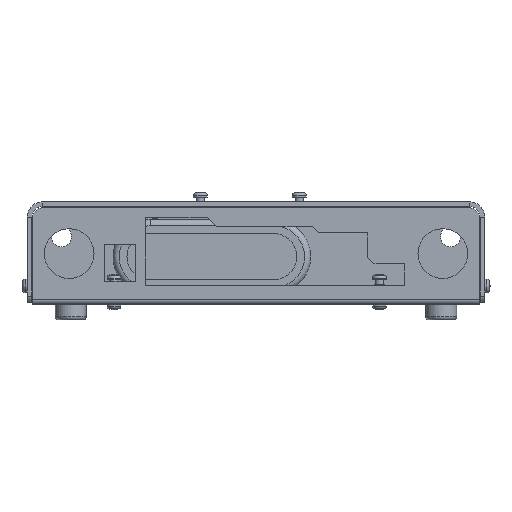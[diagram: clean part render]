
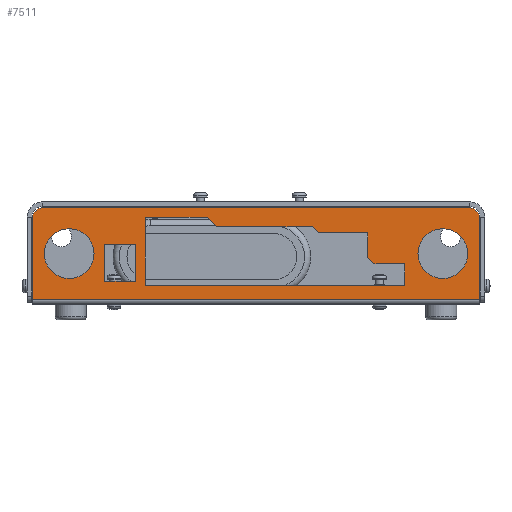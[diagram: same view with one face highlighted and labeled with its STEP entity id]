
A CAD part, front view. The second image highlights one B-rep face of the part: STEP entity #7511.
In plain terms, the highlighted planar face has unit normal (0, -1, 0).
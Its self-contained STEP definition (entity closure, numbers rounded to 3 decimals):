
#359=FACE_BOUND('',#1137,.T.);
#360=FACE_BOUND('',#1138,.T.);
#361=FACE_BOUND('',#1139,.T.);
#362=FACE_BOUND('',#1140,.T.);
#444=PLANE('',#8075);
#706=FACE_OUTER_BOUND('',#1136,.T.);
#1136=EDGE_LOOP('',(#5647,#5648,#5649,#5650,#5651,#5652));
#1137=EDGE_LOOP('',(#5653));
#1138=EDGE_LOOP('',(#5654));
#1139=EDGE_LOOP('',(#5655,#5656,#5657,#5658));
#1140=EDGE_LOOP('',(#5659,#5660,#5661,#5662,#5663,#5664,#5665,#5666,#5667,
#5668,#5669));
#1658=LINE('',#11664,#2420);
#1660=LINE('',#11669,#2422);
#1661=LINE('',#11671,#2423);
#1662=LINE('',#11675,#2424);
#1663=LINE('',#11678,#2425);
#1664=LINE('',#11685,#2426);
#1665=LINE('',#11687,#2427);
#1666=LINE('',#11689,#2428);
#1667=LINE('',#11690,#2429);
#1668=LINE('',#11692,#2430);
#1669=LINE('',#11694,#2431);
#1670=LINE('',#11696,#2432);
#1671=LINE('',#11698,#2433);
#1672=LINE('',#11700,#2434);
#1673=LINE('',#11702,#2435);
#1674=LINE('',#11704,#2436);
#1675=LINE('',#11706,#2437);
#1676=LINE('',#11708,#2438);
#1677=LINE('',#11709,#2439);
#2420=VECTOR('',#9206,10.);
#2422=VECTOR('',#9210,10.);
#2423=VECTOR('',#9211,0.67);
#2424=VECTOR('',#9214,10.);
#2425=VECTOR('',#9217,10.);
#2426=VECTOR('',#9222,10.);
#2427=VECTOR('',#9223,10.);
#2428=VECTOR('',#9224,10.);
#2429=VECTOR('',#9225,10.);
#2430=VECTOR('',#9226,10.);
#2431=VECTOR('',#9227,10.);
#2432=VECTOR('',#9228,10.);
#2433=VECTOR('',#9229,10.);
#2434=VECTOR('',#9230,10.);
#2435=VECTOR('',#9231,10.);
#2436=VECTOR('',#9232,10.);
#2437=VECTOR('',#9233,10.);
#2438=VECTOR('',#9234,10.);
#2439=VECTOR('',#9235,10.);
#3110=CIRCLE('',#8076,4.);
#3111=CIRCLE('',#8077,4.);
#3112=CIRCLE('',#8078,8.05);
#3113=CIRCLE('',#8079,8.05);
#3561=VERTEX_POINT('',#11661);
#3562=VERTEX_POINT('',#11663);
#3563=VERTEX_POINT('',#11667);
#3564=VERTEX_POINT('',#11668);
#3565=VERTEX_POINT('',#11670);
#3566=VERTEX_POINT('',#11672);
#3567=VERTEX_POINT('',#11674);
#3568=VERTEX_POINT('',#11676);
#3569=VERTEX_POINT('',#11679);
#3570=VERTEX_POINT('',#11681);
#3571=VERTEX_POINT('',#11683);
#3572=VERTEX_POINT('',#11684);
#3573=VERTEX_POINT('',#11686);
#3574=VERTEX_POINT('',#11688);
#3575=VERTEX_POINT('',#11691);
#3576=VERTEX_POINT('',#11693);
#3577=VERTEX_POINT('',#11695);
#3578=VERTEX_POINT('',#11697);
#3579=VERTEX_POINT('',#11699);
#3580=VERTEX_POINT('',#11701);
#3581=VERTEX_POINT('',#11703);
#3582=VERTEX_POINT('',#11705);
#3583=VERTEX_POINT('',#11707);
#4339=EDGE_CURVE('',#3561,#3562,#1658,.T.);
#4341=EDGE_CURVE('',#3563,#3564,#1660,.T.);
#4342=EDGE_CURVE('',#3563,#3565,#1661,.T.);
#4343=EDGE_CURVE('',#3566,#3565,#3110,.T.);
#4344=EDGE_CURVE('',#3566,#3567,#1662,.T.);
#4345=EDGE_CURVE('',#3568,#3567,#3111,.T.);
#4346=EDGE_CURVE('',#3564,#3568,#1663,.T.);
#4347=EDGE_CURVE('',#3569,#3569,#3112,.T.);
#4348=EDGE_CURVE('',#3570,#3570,#3113,.T.);
#4349=EDGE_CURVE('',#3571,#3572,#1664,.T.);
#4350=EDGE_CURVE('',#3572,#3573,#1665,.T.);
#4351=EDGE_CURVE('',#3573,#3574,#1666,.T.);
#4352=EDGE_CURVE('',#3574,#3571,#1667,.T.);
#4353=EDGE_CURVE('',#3561,#3575,#1668,.T.);
#4354=EDGE_CURVE('',#3576,#3575,#1669,.T.);
#4355=EDGE_CURVE('',#3576,#3577,#1670,.T.);
#4356=EDGE_CURVE('',#3577,#3578,#1671,.T.);
#4357=EDGE_CURVE('',#3579,#3578,#1672,.T.);
#4358=EDGE_CURVE('',#3579,#3580,#1673,.T.);
#4359=EDGE_CURVE('',#3580,#3581,#1674,.T.);
#4360=EDGE_CURVE('',#3581,#3582,#1675,.T.);
#4361=EDGE_CURVE('',#3582,#3583,#1676,.T.);
#4362=EDGE_CURVE('',#3583,#3562,#1677,.T.);
#5647=ORIENTED_EDGE('',*,*,#4341,.F.);
#5648=ORIENTED_EDGE('',*,*,#4342,.T.);
#5649=ORIENTED_EDGE('',*,*,#4343,.F.);
#5650=ORIENTED_EDGE('',*,*,#4344,.T.);
#5651=ORIENTED_EDGE('',*,*,#4345,.F.);
#5652=ORIENTED_EDGE('',*,*,#4346,.F.);
#5653=ORIENTED_EDGE('',*,*,#4347,.T.);
#5654=ORIENTED_EDGE('',*,*,#4348,.T.);
#5655=ORIENTED_EDGE('',*,*,#4349,.T.);
#5656=ORIENTED_EDGE('',*,*,#4350,.T.);
#5657=ORIENTED_EDGE('',*,*,#4351,.T.);
#5658=ORIENTED_EDGE('',*,*,#4352,.T.);
#5659=ORIENTED_EDGE('',*,*,#4339,.F.);
#5660=ORIENTED_EDGE('',*,*,#4353,.T.);
#5661=ORIENTED_EDGE('',*,*,#4354,.F.);
#5662=ORIENTED_EDGE('',*,*,#4355,.T.);
#5663=ORIENTED_EDGE('',*,*,#4356,.T.);
#5664=ORIENTED_EDGE('',*,*,#4357,.F.);
#5665=ORIENTED_EDGE('',*,*,#4358,.T.);
#5666=ORIENTED_EDGE('',*,*,#4359,.T.);
#5667=ORIENTED_EDGE('',*,*,#4360,.T.);
#5668=ORIENTED_EDGE('',*,*,#4361,.T.);
#5669=ORIENTED_EDGE('',*,*,#4362,.T.);
#7511=ADVANCED_FACE('',(#706,#359,#360,#361,#362),#444,.T.);
#8075=AXIS2_PLACEMENT_3D('',#11666,#9208,#9209);
#8076=AXIS2_PLACEMENT_3D('',#11673,#9212,#9213);
#8077=AXIS2_PLACEMENT_3D('',#11677,#9215,#9216);
#8078=AXIS2_PLACEMENT_3D('',#11680,#9218,#9219);
#8079=AXIS2_PLACEMENT_3D('',#11682,#9220,#9221);
#9206=DIRECTION('',(-0.707,0.,0.707));
#9208=DIRECTION('center_axis',(0.,-1.,0.));
#9209=DIRECTION('ref_axis',(-1.,0.,0.));
#9210=DIRECTION('',(-1.,0.,0.));
#9211=DIRECTION('',(0.,0.,1.));
#9212=DIRECTION('center_axis',(0.,1.,0.));
#9213=DIRECTION('ref_axis',(0.707,0.,0.707));
#9214=DIRECTION('',(-1.,0.,0.));
#9215=DIRECTION('center_axis',(0.,1.,0.));
#9216=DIRECTION('ref_axis',(-0.707,0.,0.707));
#9217=DIRECTION('',(0.,0.,1.));
#9218=DIRECTION('center_axis',(0.,1.,0.));
#9219=DIRECTION('ref_axis',(1.,0.,0.));
#9220=DIRECTION('center_axis',(0.,1.,0.));
#9221=DIRECTION('ref_axis',(1.,0.,0.));
#9222=DIRECTION('',(0.,0.,1.));
#9223=DIRECTION('',(1.,0.,0.));
#9224=DIRECTION('',(0.,0.,-1.));
#9225=DIRECTION('',(-1.,0.,0.));
#9226=DIRECTION('',(1.,0.,0.));
#9227=DIRECTION('',(-0.707,0.,0.707));
#9228=DIRECTION('',(1.,0.,0.));
#9229=DIRECTION('',(0.,0.,-1.));
#9230=DIRECTION('',(-0.707,0.,0.707));
#9231=DIRECTION('',(1.,0.,0.));
#9232=DIRECTION('',(0.,0.,-1.));
#9233=DIRECTION('',(-1.,0.,0.));
#9234=DIRECTION('',(0.,0.,1.));
#9235=DIRECTION('',(1.,0.,0.));
#11661=CARTESIAN_POINT('',(-12.8,-42.25,25.2));
#11663=CARTESIAN_POINT('',(-15.8,-42.25,28.2));
#11664=CARTESIAN_POINT('',(-8.045,-42.25,20.445));
#11666=CARTESIAN_POINT('Origin',(0.,-42.25,15.979));
#11667=CARTESIAN_POINT('',(72.5,-42.25,1.51));
#11668=CARTESIAN_POINT('',(-72.5,-42.25,1.51));
#11669=CARTESIAN_POINT('',(68.,-42.25,1.51));
#11670=CARTESIAN_POINT('',(72.5,-42.25,27.5));
#11671=CARTESIAN_POINT('',(72.5,-42.25,-0.595));
#11672=CARTESIAN_POINT('',(68.5,-42.25,31.5));
#11673=CARTESIAN_POINT('Origin',(68.5,-42.25,27.5));
#11674=CARTESIAN_POINT('',(-68.5,-42.25,31.5));
#11675=CARTESIAN_POINT('',(-72.5,-42.25,31.5));
#11676=CARTESIAN_POINT('',(-72.5,-42.25,27.5));
#11677=CARTESIAN_POINT('Origin',(-68.5,-42.25,27.5));
#11678=CARTESIAN_POINT('',(-72.5,-42.25,0.));
#11679=CARTESIAN_POINT('',(52.45,-42.25,16.5));
#11680=CARTESIAN_POINT('Origin',(60.5,-42.25,16.5));
#11681=CARTESIAN_POINT('',(-68.55,-42.25,16.5));
#11682=CARTESIAN_POINT('Origin',(-60.5,-42.25,16.5));
#11683=CARTESIAN_POINT('',(-49.,-42.25,7.5));
#11684=CARTESIAN_POINT('',(-49.,-42.25,19.5));
#11685=CARTESIAN_POINT('',(-49.,-42.25,11.739));
#11686=CARTESIAN_POINT('',(-39.,-42.25,19.5));
#11687=CARTESIAN_POINT('',(-24.5,-42.25,19.5));
#11688=CARTESIAN_POINT('',(-39.,-42.25,7.5));
#11689=CARTESIAN_POINT('',(-39.,-42.25,17.739));
#11690=CARTESIAN_POINT('',(-19.5,-42.25,7.5));
#11691=CARTESIAN_POINT('',(18.2,-42.25,25.2));
#11692=CARTESIAN_POINT('',(-7.9,-42.25,25.2));
#11693=CARTESIAN_POINT('',(20.2,-42.25,23.2));
#11694=CARTESIAN_POINT('',(16.205,-42.25,27.195));
#11695=CARTESIAN_POINT('',(36.2,-42.25,23.2));
#11696=CARTESIAN_POINT('',(9.6,-42.25,23.2));
#11697=CARTESIAN_POINT('',(36.2,-42.25,15.2));
#11698=CARTESIAN_POINT('',(36.2,-42.25,19.589));
#11699=CARTESIAN_POINT('',(38.2,-42.25,13.2));
#11700=CARTESIAN_POINT('',(27.455,-42.25,23.945));
#11701=CARTESIAN_POINT('',(48.2,-42.25,13.2));
#11702=CARTESIAN_POINT('',(18.1,-42.25,13.2));
#11703=CARTESIAN_POINT('',(48.2,-42.25,6.2));
#11704=CARTESIAN_POINT('',(48.2,-42.25,14.589));
#11705=CARTESIAN_POINT('',(-35.8,-42.25,6.2));
#11706=CARTESIAN_POINT('',(24.1,-42.25,6.2));
#11707=CARTESIAN_POINT('',(-35.8,-42.25,28.2));
#11708=CARTESIAN_POINT('',(-35.8,-42.25,11.089));
#11709=CARTESIAN_POINT('',(-17.9,-42.25,28.2));
